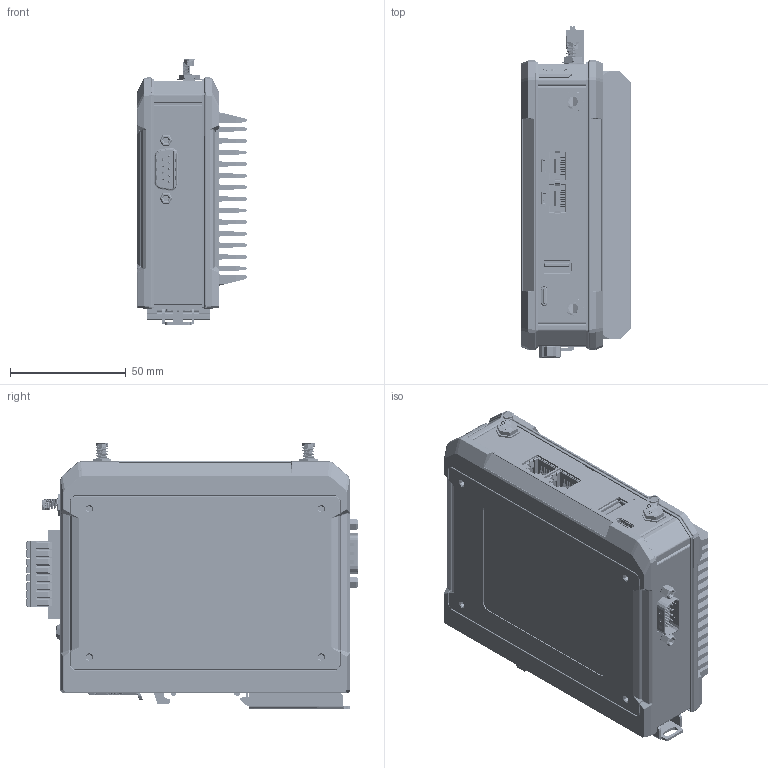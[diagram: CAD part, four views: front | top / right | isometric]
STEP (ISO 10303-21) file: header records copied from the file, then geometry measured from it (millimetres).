
FILE_DESCRIPTION((''),'2;1');
FILE_NAME('3D_ONCELL_G4302','2023-06-13T11:18:08',('Dacia_Yao'),('PTC'),'CREO PARAMETRIC BY PTC INC, 2018020','CREO PARAMETRIC BY PTC INC, 2018020','');
FILE_SCHEMA(('AUTOMOTIVE_DESIGN { 1 0 10303 214 1 1 1 1 }'));
Products named in the file (1): 3D_ONCELL_G4302
Bounding box: 47.2 x 143.1 x 114.25 mm (x, y, z)
Topology: 311 solids, 985 shells, 28833 faces, 80209 edges, 53273 vertices
Faces by surface type: plane 22706, cylinder 4744, bspline 610, torus 328, cone 315, sphere 106, extrusion 24
Full cylindrical faces by diameter (mm): 0.3 x8, 0.6 x9, 1 x2
Entity records: 1161508 total; most frequent: CARTESIAN_POINT 225773, ORIENTED_EDGE 155529, DIRECTION 140852, EDGE_CURVE 80134, VECTOR 66326, LINE 66302, VERTEX_POINT 53287, PRESENTATION_STYLE_ASSIGNMENT 49884
